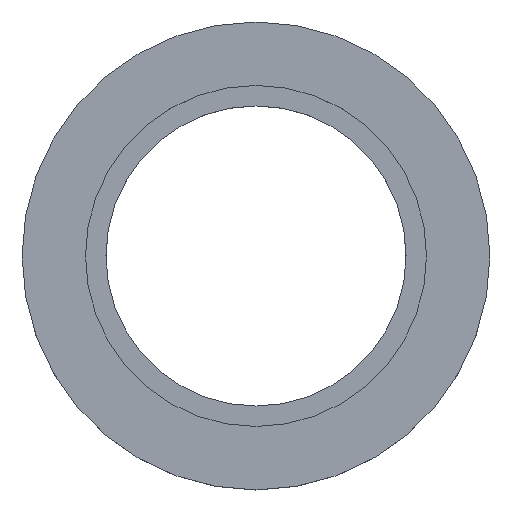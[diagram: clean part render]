
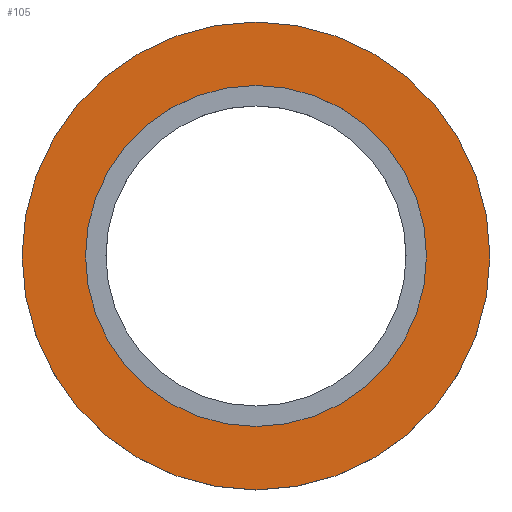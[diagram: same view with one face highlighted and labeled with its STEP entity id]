
A CAD part, top view. The second image highlights one B-rep face of the part: STEP entity #105.
In plain terms, the highlighted planar face has unit normal (0, 0, 1).
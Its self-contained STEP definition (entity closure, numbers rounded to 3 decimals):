
#21 = EDGE_CURVE('',#22,#22,#24,.T.);
#22 = VERTEX_POINT('',#23);
#23 = CARTESIAN_POINT('',(17.15,0.,0.));
#24 = SURFACE_CURVE('',#25,(#30,#42),.PCURVE_S1.);
#25 = CIRCLE('',#26,17.15);
#26 = AXIS2_PLACEMENT_3D('',#27,#28,#29);
#27 = CARTESIAN_POINT('',(0.,0.,0.));
#28 = DIRECTION('',(0.,0.,1.));
#29 = DIRECTION('',(1.,0.,-0.));
#30 = PCURVE('',#31,#36);
#31 = CYLINDRICAL_SURFACE('',#32,17.15);
#32 = AXIS2_PLACEMENT_3D('',#33,#34,#35);
#33 = CARTESIAN_POINT('',(0.,0.,-4.));
#34 = DIRECTION('',(0.,0.,1.));
#35 = DIRECTION('',(1.,0.,-0.));
#36 = DEFINITIONAL_REPRESENTATION('',(#37),#41);
#37 = LINE('',#38,#39);
#38 = CARTESIAN_POINT('',(0.,4.));
#39 = VECTOR('',#40,1.);
#40 = DIRECTION('',(1.,0.));
#41 = ( GEOMETRIC_REPRESENTATION_CONTEXT(2) 
PARAMETRIC_REPRESENTATION_CONTEXT() REPRESENTATION_CONTEXT('2D SPACE',''
  ) );
#42 = PCURVE('',#43,#48);
#43 = PLANE('',#44);
#44 = AXIS2_PLACEMENT_3D('',#45,#46,#47);
#45 = CARTESIAN_POINT('',(0.,0.,0.));
#46 = DIRECTION('',(0.,0.,1.));
#47 = DIRECTION('',(1.,0.,-0.));
#48 = DEFINITIONAL_REPRESENTATION('',(#49),#53);
#49 = CIRCLE('',#50,17.15);
#50 = AXIS2_PLACEMENT_2D('',#51,#52);
#51 = CARTESIAN_POINT('',(0.,0.));
#52 = DIRECTION('',(1.,0.));
#53 = ( GEOMETRIC_REPRESENTATION_CONTEXT(2) 
PARAMETRIC_REPRESENTATION_CONTEXT() REPRESENTATION_CONTEXT('2D SPACE',''
  ) );
#105 = ADVANCED_FACE('',(#106,#109),#43,.T.);
#106 = FACE_BOUND('',#107,.T.);
#107 = EDGE_LOOP('',(#108));
#108 = ORIENTED_EDGE('',*,*,#21,.T.);
#109 = FACE_BOUND('',#110,.T.);
#110 = EDGE_LOOP('',(#111));
#111 = ORIENTED_EDGE('',*,*,#112,.F.);
#112 = EDGE_CURVE('',#113,#113,#115,.T.);
#113 = VERTEX_POINT('',#114);
#114 = CARTESIAN_POINT('',(12.5,0.,0.));
#115 = SURFACE_CURVE('',#116,(#121,#128),.PCURVE_S1.);
#116 = CIRCLE('',#117,12.5);
#117 = AXIS2_PLACEMENT_3D('',#118,#119,#120);
#118 = CARTESIAN_POINT('',(0.,0.,0.));
#119 = DIRECTION('',(0.,0.,1.));
#120 = DIRECTION('',(1.,0.,-0.));
#121 = PCURVE('',#43,#122);
#122 = DEFINITIONAL_REPRESENTATION('',(#123),#127);
#123 = CIRCLE('',#124,12.5);
#124 = AXIS2_PLACEMENT_2D('',#125,#126);
#125 = CARTESIAN_POINT('',(0.,0.));
#126 = DIRECTION('',(1.,0.));
#127 = ( GEOMETRIC_REPRESENTATION_CONTEXT(2) 
PARAMETRIC_REPRESENTATION_CONTEXT() REPRESENTATION_CONTEXT('2D SPACE',''
  ) );
#128 = PCURVE('',#129,#134);
#129 = CYLINDRICAL_SURFACE('',#130,12.5);
#130 = AXIS2_PLACEMENT_3D('',#131,#132,#133);
#131 = CARTESIAN_POINT('',(0.,0.,-1.));
#132 = DIRECTION('',(0.,0.,1.));
#133 = DIRECTION('',(1.,0.,-0.));
#134 = DEFINITIONAL_REPRESENTATION('',(#135),#139);
#135 = LINE('',#136,#137);
#136 = CARTESIAN_POINT('',(0.,1.));
#137 = VECTOR('',#138,1.);
#138 = DIRECTION('',(1.,0.));
#139 = ( GEOMETRIC_REPRESENTATION_CONTEXT(2) 
PARAMETRIC_REPRESENTATION_CONTEXT() REPRESENTATION_CONTEXT('2D SPACE',''
  ) );
